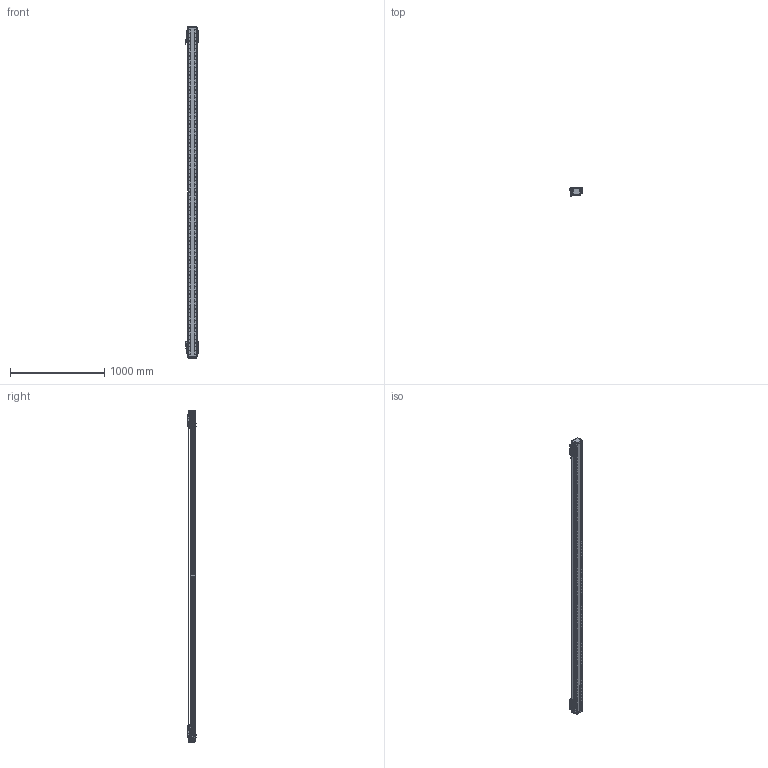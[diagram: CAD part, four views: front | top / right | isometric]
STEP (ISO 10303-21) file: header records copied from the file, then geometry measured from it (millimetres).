
FILE_DESCRIPTION (( 'STEP AP203' ), '1' );
FILE_NAME ('DA-B95-2-B15-T3140-C010-0.2 直线电机.STEP', '2023-05-06T06:46:18', ( '微软用户' ), ( '微软中国' ), 'SwSTEP 2.0', 'SolidWorks 2019', '' );
FILE_SCHEMA (( 'CONFIG_CONTROL_DESIGN' ));
Length unit declared in the file: millimetre
Products named in the file (34): 复件 DA95-B15-YB-A-00 压板A^66245-BU95-V 滚珠滑台; 复件 六角薄螺母 M3^DA-A95-B15-T-C010-0.2-N 直线电机_GB_FASTENER_NUT_STNAB M3-C; 复件 DA95-HK-GT-00 滑块钢轨^66245-BU95-V-00 一体化滑动台板; DA-A95-GYP-00 光电感应片^DA-A95-B15-T-C010-0.2-N 直线电机; 复件 DKW-GYP-ZJ-00 中间光电感应片^DA-A95-B15-T-C010-0.2-N 直线电机; 复件 DA95-DB-00  挡板^66245-BU95-V 滚珠滑台; 66245-BU95-V 幗紩賑怢; 复件 纯铜油杯 6x6mm^66245-BU95-V 滚珠滑台; 葩璃 DA95-GT-T-00^IU-BU95-L 菁釱絳寢_DA95; 复件 DA95-B15-YB-B-00 压板B^66245-BU95-V 滚珠滑台; 复件 DA95-MFP-01 密封片^66245-BU95-V 滚珠滑台; 复件 复件 18252-0001-004-00 钢带端盖^DA-A95-B15-T-C010-0.2-N 直线电机; 葩璃 BKM015-W060-C1-TP-DA-0.2^DA-A95-B15-T-C010-0.2-N 眻盄萇儂; 葩璃 DA95-B15-DP-A-00 菜えA^66245-BU95-V 幗紩賑怢; 复件 DKW-KGZ-ZJ-00 中间光电开关支架^DA-A95-B15-T-C010-0.2-N 直线电机; IU-BU95-L 菁釱絳寢; 葩璃 PM-Y45^DA-A95-B15-T-C010-0.2-N 眻盄萇儂; 复件 66245-BU95-HT-V-01 滑动台板^66245-BU95-V-00 一体化滑动台板; 复件 复件 18252-0001-003-00 钢带拉块^DA-A95-B15-T-C010-0.2-N 直线电机; 复件 DKW-HXJ-JY-00 缓冲橡胶^DA-A95-B15-T-C010-0.2-N 直线电机; IU-BU95-L-00 菁釱_L3480; 66245-BU95-V-00 珨极趙賑雄怢啣; PM-T45 光电开关^DA-A95-B15-T-C010-0.2-N 直线电机; LMDK-2-R001-V5-L02-C1-F00，0.2M 读数头^DA-A95-B15-T-C010-0.2-N 直线电机_DMA-010-0.2; 复件 DA95-DK-00 挡块^66245-BU95-V 滚珠滑台; B15 XD-U-02L ｴﾅﾕ､ｳﾟ^DA-A95-B15-T-C010-0.2-N ﾖｱﾏﾟｵ扈銈XD-U-02L; 葩璃 DA95-B15-DP--B-00 菜えB^66245-BU95-V 幗紩賑怢; 复件 复件 18252-0001-002-00 钢带垫块^DA-A95-B15-T-C010-0.2-N 直线电机; 葩璃 BKMA01-W060-TRL^DA-A95-B15-T-C010-0.2-N 眻盄萇儂; DA95-HXJ-00 缓冲橡胶^DA-A95-B15-T-C010-0.2-N 直线电机; 复件 DA95-B15 钢带盖板^DA-A95-B15-T-C010-0.2-N 直线电机; DA-B95-2-B15-T3140-C010-0.2 眻盄萇儂
Assembly tree (80 placements, depth 4):
  DA-B95-2-B15-T3140-C010-0.2 眻盄萇儂
    IU-BU95-L 菁釱絳寢
      IU-BU95-L-00 菁釱_L3480
      葩璃 DA95-GT-T-00^IU-BU95-L 菁釱絳寢_DA95  x2
    66245-BU95-V 幗紩賑怢
      66245-BU95-V-00 珨极趙賑雄怢啣
        复件 66245-BU95-HT-V-01 滑动台板^66245-BU95-V-00 一体化滑动台板
        复件 DA95-HK-GT-00 滑块钢轨^66245-BU95-V-00 一体化滑动台板  x2
      葩璃 DA95-B15-DP-A-00 菜えA^66245-BU95-V 幗紩賑怢
      复件 DA95-B15-YB-A-00 压板A^66245-BU95-V 滚珠滑台
      复件 DA95-B15-YB-B-00 压板B^66245-BU95-V 滚珠滑台
      复件 DA95-DB-00  挡板^66245-BU95-V 滚珠滑台  x4
      复件 DA95-DK-00 挡块^66245-BU95-V 滚珠滑台  x2
      复件 DA95-MFP-01 密封片^66245-BU95-V 滚珠滑台  x4
      复件 纯铜油杯 6x6mm^66245-BU95-V 滚珠滑台  x2
      葩璃 DA95-B15-DP--B-00 菜えB^66245-BU95-V 幗紩賑怢
    66245-BU95-V 幗紩賑怢
      66245-BU95-V-00 珨极趙賑雄怢啣
        复件 66245-BU95-HT-V-01 滑动台板^66245-BU95-V-00 一体化滑动台板
        复件 DA95-HK-GT-00 滑块钢轨^66245-BU95-V-00 一体化滑动台板  x2
      葩璃 DA95-B15-DP-A-00 菜えA^66245-BU95-V 幗紩賑怢
      复件 DA95-B15-YB-A-00 压板A^66245-BU95-V 滚珠滑台
      复件 DA95-B15-YB-B-00 压板B^66245-BU95-V 滚珠滑台
      复件 DA95-DB-00  挡板^66245-BU95-V 滚珠滑台  x4
      复件 DA95-DK-00 挡块^66245-BU95-V 滚珠滑台  x2
      复件 DA95-MFP-01 密封片^66245-BU95-V 滚珠滑台  x4
      复件 纯铜油杯 6x6mm^66245-BU95-V 滚珠滑台  x2
      葩璃 DA95-B15-DP--B-00 菜えB^66245-BU95-V 幗紩賑怢
    DA-A95-GYP-00 光电感应片^DA-A95-B15-T-C010-0.2-N 直线电机  x2
    LMDK-2-R001-V5-L02-C1-F00，0.2M 读数头^DA-A95-B15-T-C010-0.2-N 直线电机_DMA-010-0.2  x2
    复件 DKW-KGZ-ZJ-00 中间光电开关支架^DA-A95-B15-T-C010-0.2-N 直线电机
    葩璃 PM-Y45^DA-A95-B15-T-C010-0.2-N 眻盄萇儂
    复件 DKW-GYP-ZJ-00 中间光电感应片^DA-A95-B15-T-C010-0.2-N 直线电机
    葩璃 BKM015-W060-C1-TP-DA-0.2^DA-A95-B15-T-C010-0.2-N 眻盄萇儂  x2
    复件 DKW-HXJ-JY-00 缓冲橡胶^DA-A95-B15-T-C010-0.2-N 直线电机  x2
    PM-T45 光电开关^DA-A95-B15-T-C010-0.2-N 直线电机  x4
    B15 XD-U-02L ｴﾅﾕ､ｳﾟ^DA-A95-B15-T-C010-0.2-N ﾖｱﾏﾟｵ扈銈XD-U-02L
    复件 复件 18252-0001-003-00 钢带拉块^DA-A95-B15-T-C010-0.2-N 直线电机  x2
    复件 复件 18252-0001-002-00 钢带垫块^DA-A95-B15-T-C010-0.2-N 直线电机  x2
    复件 复件 18252-0001-004-00 钢带端盖^DA-A95-B15-T-C010-0.2-N 直线电机  x2
    复件 DA95-B15 钢带盖板^DA-A95-B15-T-C010-0.2-N 直线电机
    DA95-HXJ-00 缓冲橡胶^DA-A95-B15-T-C010-0.2-N 直线电机  x4
    葩璃 BKMA01-W060-TRL^DA-A95-B15-T-C010-0.2-N 眻盄萇儂
    复件 六角薄螺母 M3^DA-A95-B15-T-C010-0.2-N 直线电机_GB_FASTENER_NUT_STNAB M3-C  x6
Bounding box: 145.4 x 90.2 x 3516 mm (x, y, z)
Volume: 10944161.1 mm3; surface area: 3664786.9 mm2
Topology: 75 solids, 93 shells, 4620 faces, 13372 edges, 8527 vertices
Faces by surface type: cylinder 2477, plane 1611, cone 464, torus 64, sphere 4
Entity records: 121852 total; most frequent: CARTESIAN_POINT 33578, ORIENTED_EDGE 18102, DIRECTION 17136, EDGE_CURVE 9051, AXIS2_PLACEMENT_3D 6565, VERTEX_POINT 5929, LINE 4006, VECTOR 4006
